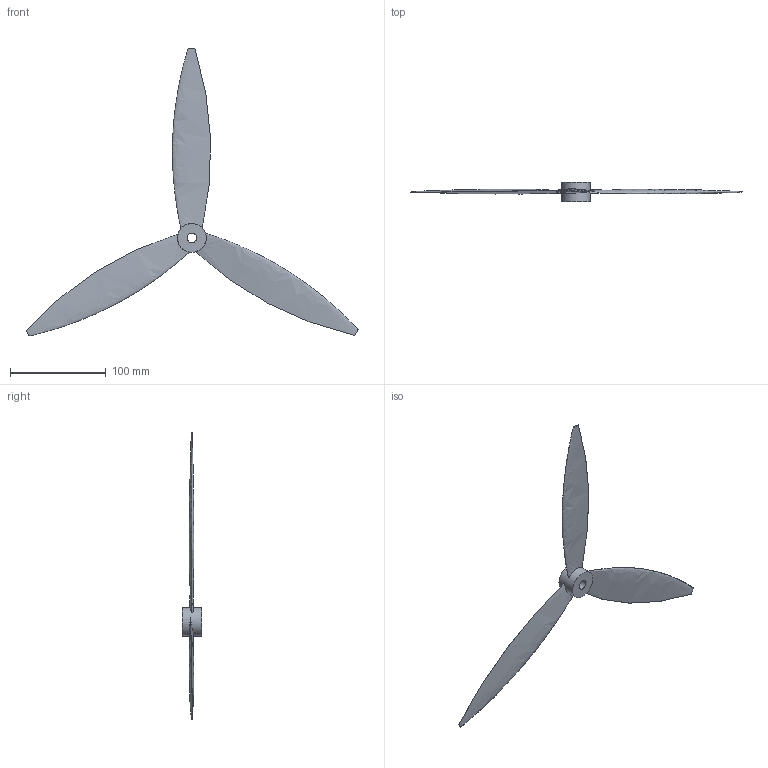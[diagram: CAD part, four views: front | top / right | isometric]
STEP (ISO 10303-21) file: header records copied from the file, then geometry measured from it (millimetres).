
FILE_DESCRIPTION(/* description */ (''),/* implementation_level */ '2;1');
FILE_NAME(/* name */ 'Blade for thrust.step',/* time_stamp */ '2026-10-11T15:42:49+05:30',/* author */ (''),/* organization */ (''),/* preprocessor_version */ 'ST-DEVELOPER v20.2',/* originating_system */ 'Autodesk Translation Framework v15.15.0.0',/* authorisation */ '');
FILE_SCHEMA (('AUTOMOTIVE_DESIGN { 1 0 10303 214 3 1 1 }'));
Length unit declared in the file: centimetre
Products named in the file (1): 2026-10-11-14-37-22-747
Bounding box: 346.75 x 20 x 300.5 mm (x, y, z)
Volume: 85697.1 mm3; surface area: 46661.5 mm2
Topology: 3 solids, 3 shells, 21 faces, 33 edges, 21 vertices
Faces by surface type: plane 9, cylinder 6, bspline 6
Full cylindrical faces by diameter (mm): 10 x3, 30 x3
Entity records: 2542 total; most frequent: CARTESIAN_POINT 2145, ORIENTED_EDGE 66, DIRECTION 65, EDGE_CURVE 33, EDGE_LOOP 30, AXIS2_PLACEMENT_3D 28, FACE_OUTER_BOUND 21, VERTEX_POINT 21
